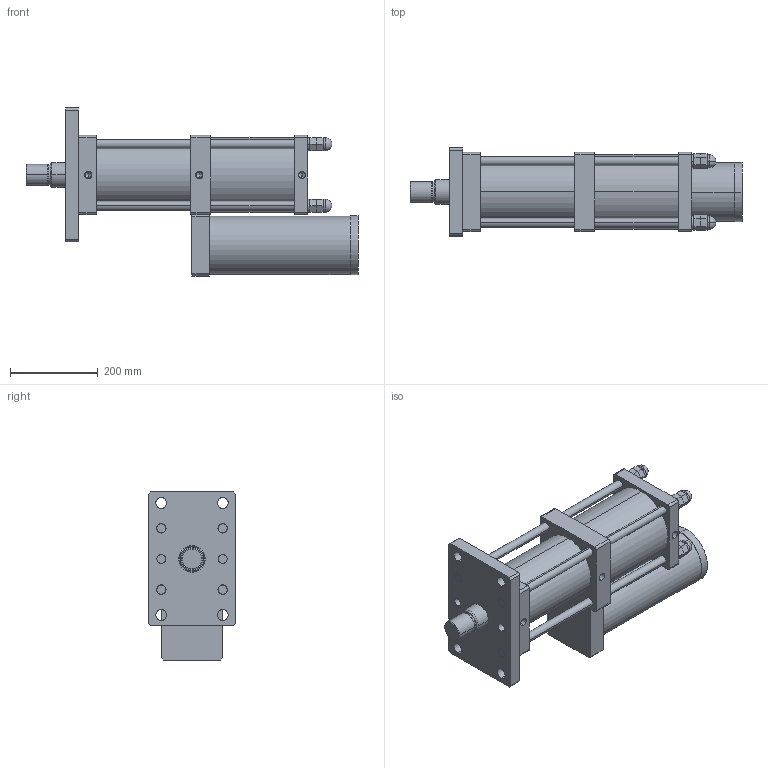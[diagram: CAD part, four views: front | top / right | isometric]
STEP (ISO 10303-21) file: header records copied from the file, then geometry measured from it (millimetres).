
FILE_DESCRIPTION (( 'STEP AP203' ), '1' );
FILE_NAME ('MPT-125-150-10-15T.STEP', '2016-03-12T01:25:46', ( 'WIN' ), ( '' ), 'SwSTEP 2.0', 'SolidWorks 2014', '' );
FILE_SCHEMA (( 'CONFIG_CONTROL_DESIGN' ));
Length unit declared in the file: millimetre
Products named in the file (1): MPT-125-150-10-15T
Bounding box: 755.5 x 200 x 382.5 mm (x, y, z)
Volume: 15630041.3 mm3; surface area: 1216009.5 mm2
Topology: 17 solids, 17 shells, 320 faces, 732 edges, 458 vertices
Faces by surface type: plane 154, cylinder 124, cone 30, sphere 8, torus 4
Entity records: 8963 total; most frequent: DIRECTION 1652, CARTESIAN_POINT 1479, ORIENTED_EDGE 1416, EDGE_CURVE 708, AXIS2_PLACEMENT_3D 623, VERTEX_POINT 450, VECTOR 406, LINE 406
